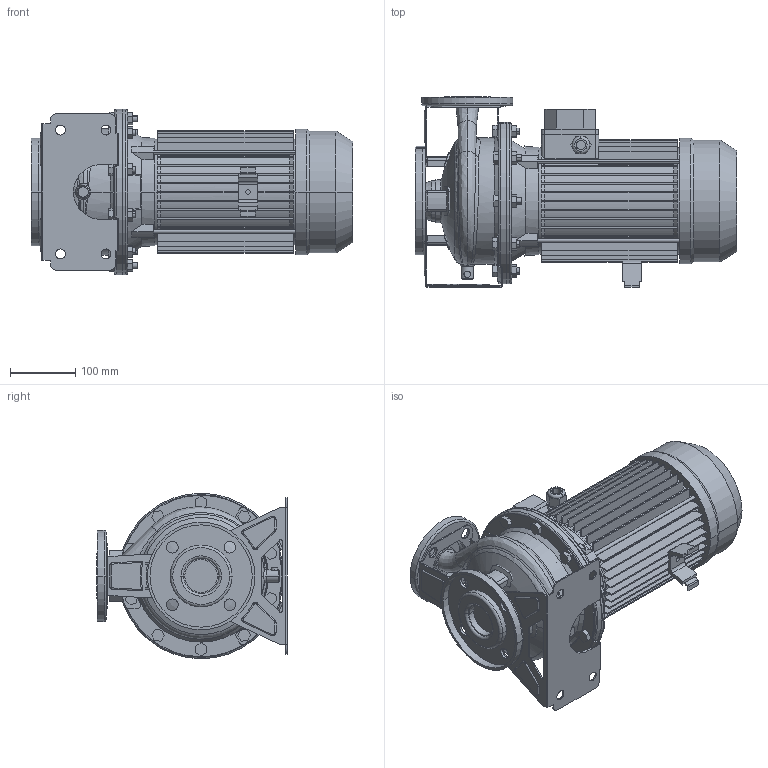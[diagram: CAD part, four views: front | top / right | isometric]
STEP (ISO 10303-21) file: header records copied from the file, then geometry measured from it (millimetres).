
FILE_DESCRIPTION((''),'2;1');
FILE_NAME('3M_32-160_4_06_E_ASM','2011-07-06T',('Utente'),('"Ebara Pumps Europe +39.444.706811"'),'PRO/ENGINEER BY PARAMETRIC TECHNOLOGY CORPORATION, 2009360','PRO/ENGINEER BY PARAMETRIC TECHNOLOGY CORPORATION, 2009360','');
FILE_SCHEMA(('AUTOMOTIVE_DESIGN { 1 0 10303 214 1 1 1 1 }'));
Length unit declared in the file: millimetre
Products named in the file (11): MEC_100X170_IE2; SUPPORTO_3M_190_100; CORPO_32-160; ASP_32-160; FLANGIA_DIN_50; MAND_32-160; FLANGIA_DIN_32; BASE_3M_32-160; CORPO_SALDATO_32-160_ASM; SOSTEGNO_72005; 3M_32-160_4_06_E_ASM
Assembly tree (10 placements, depth 3):
  3M_32-160_4_06_E_ASM
    MEC_100X170_IE2
    SUPPORTO_3M_190_100
    CORPO_SALDATO_32-160_ASM
      CORPO_32-160
      ASP_32-160
      FLANGIA_DIN_50
      MAND_32-160
      FLANGIA_DIN_32
      BASE_3M_32-160
    SOSTEGNO_72005
Bounding box: 494 x 292 x 254 mm (x, y, z)
Volume: 8175357.2 mm3; surface area: 1187151.9 mm2
Topology: 12 solids, 12 shells, 1046 faces, 2660 edges, 1695 vertices
Faces by surface type: plane 555, cylinder 300, cone 94, torus 60, bspline 31, sphere 6
Entity records: 45781 total; most frequent: CARTESIAN_POINT 8945, DIRECTION 5458, ORIENTED_EDGE 5320, PRESENTATION_STYLE_ASSIGNMENT 2672, STYLED_ITEM 2672, CURVE_STYLE 2660, EDGE_CURVE 2660, AXIS2_PLACEMENT_3D 1996
